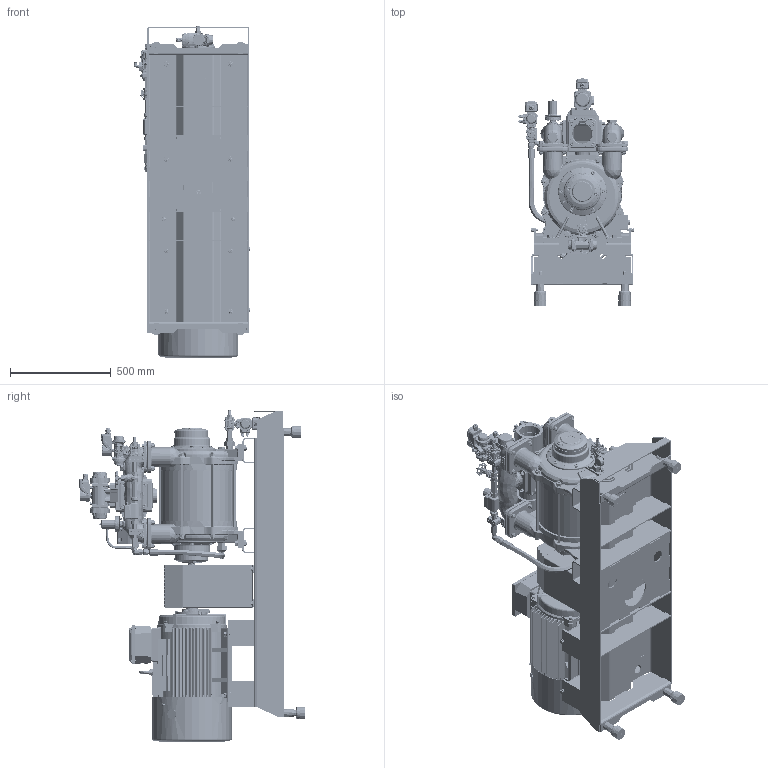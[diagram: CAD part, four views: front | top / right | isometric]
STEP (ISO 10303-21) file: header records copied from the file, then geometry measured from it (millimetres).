
FILE_DESCRIPTION(/* description */ (''),/* implementation_level */ '2;1');
FILE_NAME(/* name */ '1700140.stp',/* time_stamp */ '2025-07-31T14:46:08+02:00',/* author */ ('JJ'),/* organization */ (''),/* preprocessor_version */ 'ST-DEVELOPER v20',/* originating_system */ 'Autodesk Inventor 2025',/* authorisation */ '');
FILE_SCHEMA (('AUTOMOTIVE_DESIGN { 1 0 10303 214 3 1 1 }'));
Products named in the file (91): 1700140; 946000127; 932400048; 932300005; 932300001; 932400049; 910100155; 910000526; 910000297; 910000517; 1632204; 910100021; 1632205; 1632208; 910100161; 961000522; 910200008; 910000150; 1632212; 927000162-388 version 3; 925000873; 925000882; 925000882_part1; 925000882_part2; 925000878; 925000792; 1632216; 925000869; 925200610; 925000857; 910300370; 1632246; 910100125; 910300468; 1634666_Simplify; 927000134 OM1000 G2; 925100552; 925000865; 925000651; 1632298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
Assembly tree (287 placements, depth 4):
  1700140
    946000127
    932400048  x2
    932300005
    932300001
    932400049
    910100155  x4
    910000526  x4
    910100021  x12
    910000297  x4
    910000517  x4
    1632204  x4
    1632205  x4
    1632208  x4
    910100161  x4
    961000522  x4
    910200008  x4
    910000150  x4
    1632212
      925000873  x2
      925000878  x2
      925000882  x2
        925000882_part1
        925000882_part2
      927000162-388 version 3
    925000792
    1632216
      944600329
      944600328
      910100191  x4
      910000114  x4
      948000434
        948000434_part2
        948000434_part1
      915000241  x2
      925000725
      925000869
      925200610
    925000857  x4
    910300370  x4
    1632246  x2
    910100125  x4
    910300468  x4
    1634666_Simplify
    927000134 OM1000 G2
    925100552
    925000865
    925000651
    1632298
    1632270
    1619222_Simplify
    1619308
      910300079  x16
      910200013  x16
      910100013  x32
      910300073  x8
      1634827
        1634812
        922000267
      1634824  x3
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Bounding box: 579.35 x 1127.35 x 1650.64 mm (x, y, z)
Volume: 108253999.2 mm3; surface area: 15283176.3 mm2
Topology: 480 solids, 491 shells, 30673 faces, 78122 edges, 49511 vertices
Faces by surface type: plane 13668, cylinder 6881, bspline 5017, cone 2671, torus 2157, sphere 279
Full cylindrical faces by diameter (mm): 0.8 x1, 0.847 x2, 0.857 x2, 1.656 x4, 1.7 x4, 1.8 x4, 2 x28, 2.2 x2, 2.5 x12, 3 x4, 3.2 x1, 3.3 x4, 3.6 x4, 4 x6, 4.134 x8, 4.2 x20, 4.3 x8, 4.33 x4, 4.45 x6, 4.567 x8, 4.917 x15, 5 x20, 5.3 x8, 5.6 x16, 6 x47, 6.25 x8, 6.4 x12, 6.5 x8, 6.647 x6, 6.7 x16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
Entity records: 959472 total; most frequent: CARTESIAN_POINT 479750, ORIENTED_EDGE 100542, DIRECTION 89389, EDGE_CURVE 50271, VERTEX_POINT 32016, AXIS2_PLACEMENT_3D 31426, LINE 26537, VECTOR 26537
